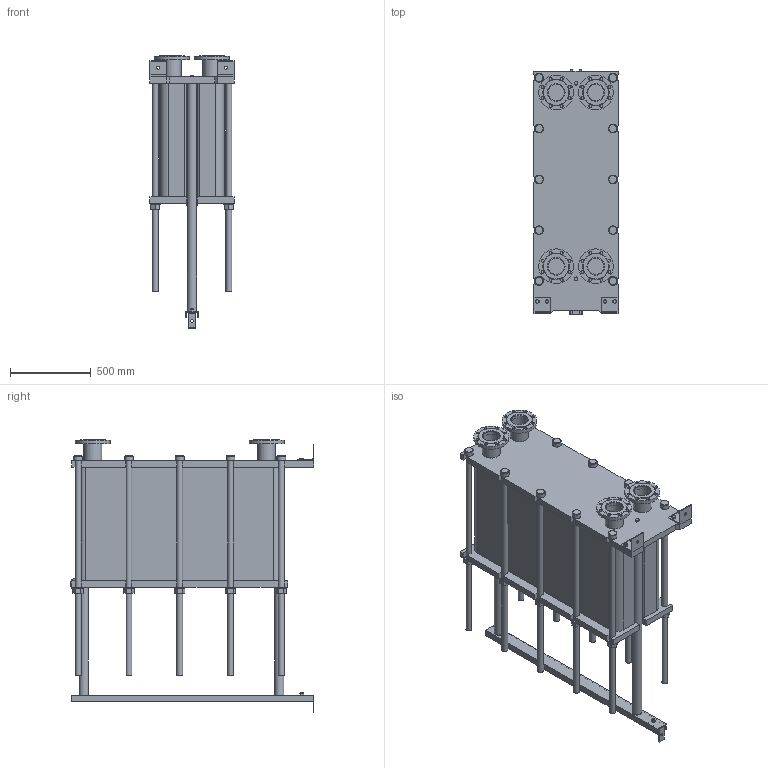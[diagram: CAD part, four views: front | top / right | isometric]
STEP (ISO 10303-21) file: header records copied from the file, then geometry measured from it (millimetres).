
FILE_DESCRIPTION(/* description */ (''),/* implementation_level */ '2;1');
FILE_NAME(/* name */ 'C:\Users\zhuro\Desktop\ENCO\TO\ЭН-04\ЭН-0,5-04-204-1.stp',/* time_stamp */ '2022-06-06T11:04:07+03:00',/* author */ ('zhuro'),/* organization */ (''),/* preprocessor_version */ 'ST-DEVELOPER v18.1',/* originating_system */ 'Autodesk Inventor 2022',/* authorisation */ '');
FILE_SCHEMA (('AUTOMOTIVE_DESIGN { 1 0 10303 214 3 1 1 }'));
Length unit declared in the file: millimetre
Products named in the file (1): ЭН-0,5-04-204-1
Bounding box: 520 x 1510 x 1687 mm (x, y, z)
Volume: 428532655.3 mm3; surface area: 10642231.8 mm2
Topology: 45 solids, 45 shells, 668 faces, 1611 edges, 1048 vertices
Faces by surface type: plane 457, cylinder 166, cone 39, torus 6
Full cylindrical faces by diameter (mm): 8 x4, 10 x2, 16 x8, 18 x35, 36 x25, 40 x2, 42 x1, 45 x4, 54 x10, 57 x2, 60 x10, 68 x2, 100 x4, 110 x8, 215 x4
Entity records: 23607 total; most frequent: CARTESIAN_POINT 7348, DIRECTION 3371, ORIENTED_EDGE 3142, EDGE_CURVE 1571, AXIS2_PLACEMENT_3D 1199, VERTEX_POINT 1044, LINE 973, VECTOR 973
